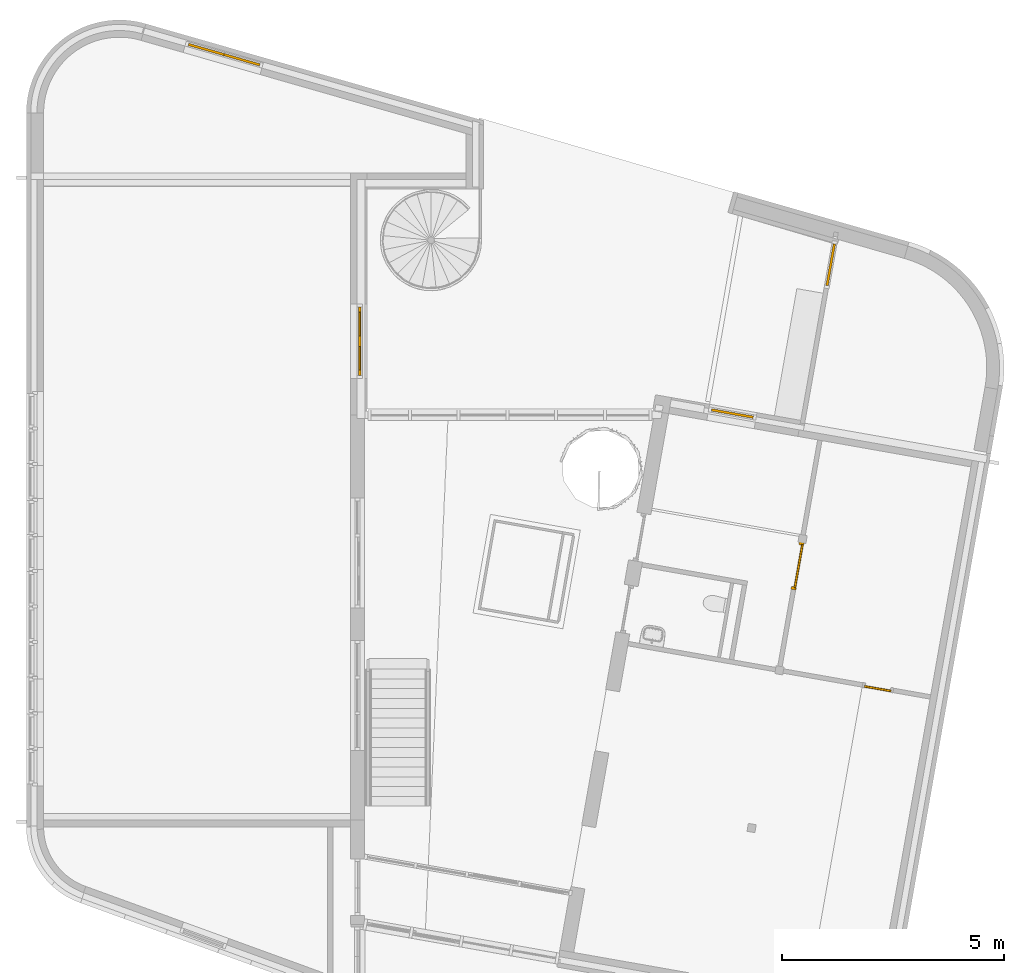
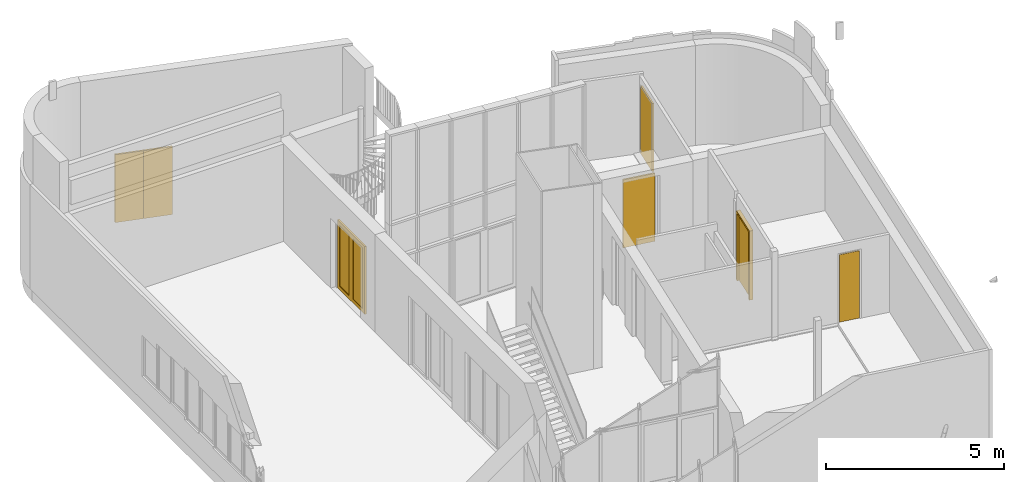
# One storey, part 18 of 21: 8 doors, 2 windows, 4 elements without a shape of their own.
"""IFC2X3 building model written with IfcOpenShell, lengths in millimetres."""

from ifc_helpers import new_model, entity, si_unit, converted_unit, derived_unit, direction, frame, frame_2d, origin, origin_2d_with_axis, place, context, subcontext, project, spatial, polyline, rectangle, outline, extrude, faceted_brep, source, transform, mapped, material, type_object, type_shapes, element, aggregate, save


model = new_model("IFC2X3")

# Units and contexts
model_context = context("Model", 3, precision=0.01, world=origin(), true_north=direction((6.12303176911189e-17, 1.0)))
body_context = subcontext(model_context, "Body", "Model", "MODEL_VIEW")
ifc_project = project(units=[si_unit("LENGTHUNIT", "METRE", prefix="MILLI"), si_unit("AREAUNIT", "SQUARE_METRE"), si_unit("VOLUMEUNIT", "CUBIC_METRE"), converted_unit("PLANEANGLEUNIT", "DEGREE", entity("IfcRatioMeasure", 0.0174532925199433), si_unit("PLANEANGLEUNIT", "RADIAN"), dimensions=[0, 0, 0, 0, 0, 0, 0]), si_unit("MASSUNIT", "GRAM", prefix="KILO"), derived_unit("MASSDENSITYUNIT", [(si_unit("MASSUNIT", "GRAM", prefix="KILO"), 1), (si_unit("LENGTHUNIT", "METRE"), -3)]), si_unit("TIMEUNIT", "SECOND"), si_unit("FREQUENCYUNIT", "HERTZ"), si_unit("THERMODYNAMICTEMPERATUREUNIT", "DEGREE_CELSIUS"), derived_unit("THERMALTRANSMITTANCEUNIT", [(si_unit("MASSUNIT", "GRAM", prefix="KILO"), 1), (si_unit("THERMODYNAMICTEMPERATUREUNIT", "KELVIN"), -1), (si_unit("TIMEUNIT", "SECOND"), -3)]), derived_unit("VOLUMETRICFLOWRATEUNIT", [(si_unit("LENGTHUNIT", "METRE"), 3), (si_unit("TIMEUNIT", "SECOND"), -1)]), si_unit("ELECTRICCURRENTUNIT", "AMPERE"), si_unit("ELECTRICVOLTAGEUNIT", "VOLT"), si_unit("POWERUNIT", "WATT"), si_unit("FORCEUNIT", "NEWTON", prefix="KILO"), si_unit("ILLUMINANCEUNIT", "LUX"), si_unit("LUMINOUSFLUXUNIT", "LUMEN"), si_unit("LUMINOUSINTENSITYUNIT", "CANDELA"), derived_unit("USERDEFINED", [(si_unit("MASSUNIT", "GRAM", prefix="KILO"), -1), (si_unit("LENGTHUNIT", "METRE"), -2), (si_unit("TIMEUNIT", "SECOND"), 3), (si_unit("LUMINOUSFLUXUNIT", "LUMEN"), 1)]), derived_unit("LINEARVELOCITYUNIT", [(si_unit("LENGTHUNIT", "METRE"), 1), (si_unit("TIMEUNIT", "SECOND"), -1)]), si_unit("PRESSUREUNIT", "PASCAL"), derived_unit("USERDEFINED", [(si_unit("LENGTHUNIT", "METRE"), -2), (si_unit("MASSUNIT", "GRAM", prefix="KILO"), 1), (si_unit("TIMEUNIT", "SECOND"), -2)])], contexts=[model_context])

# Site, building, storey
site_placement = place(None, origin())
site = spatial("IfcSite", under=ifc_project, at=site_placement, Name="<Kadaster Gemeente>;<Kadaster nummer>;<Kadaster sectie>", CompositionType="ELEMENT")
building_placement = place(site_placement, origin())
building = spatial("IfcBuilding", under=site, at=building_placement, Name="JRCZ Middelburg", CompositionType="ELEMENT")
storey_placement = place(building_placement, origin())
storey = spatial("IfcBuildingStorey", under=building, at=storey_placement, Name="00 begane grond", CompositionType="ELEMENT", Elevation=0.0)

# Curtain wall, door
curtain_wall_type = type_object("IfcCurtainWallType", Name="Curtain Wall:NLRS_31_CW_Ontwerpkozijn 067x114", PredefinedType="NOTDEFINED")
curtain_wall_1_placement = place(storey_placement, origin())
curtain_wall_1 = element("IfcCurtainWall", 1, at=curtain_wall_1_placement, inside=storey, type_object=curtain_wall_type, Name="Curtain Wall:NLRS_31_CW_Ontwerpkozijn 067x114", ObjectType="Curtain Wall:NLRS_31_CW_Ontwerpkozijn 067x114")
ifc_material_1 = material(Name="RBM_a_kozijn")
door_style_1 = type_object("IfcDoorStyle", Name="0std", ConstructionType="NOTDEFINED", OperationType="NOTDEFINED", ParameterTakesPrecedence=False, Sizeable=False, material=ifc_material_1)
shared_shape_1 = source(origin(), body_context, "Body", "SweptSolid", [
    extrude(outline(polyline([(-383.249999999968, -1166.5), (383.249999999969, -1166.5), (383.249999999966, 1166.5), (-383.249999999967, 1166.5), (-383.249999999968, -1166.5)]), holes=[polyline([(-263.249999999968, -1046.5), (-263.249999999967, 1046.49999999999), (263.250000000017, 1046.49999999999), (263.250000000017, -1046.5), (-263.249999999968, -1046.5)])]), frame((383.249999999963, 57.0, 1166.5), z_axis=(0.0, 1.0, 0.0), x_axis=(1.0, 0.0, 0.0)), (0.0, 0.0, 1.0), 27.0),
    extrude(outline(polyline([(-383.249999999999, -1166.5), (383.249999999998, -1166.5), (383.249999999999, 1166.5), (-383.249999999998, 1166.5), (-383.249999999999, -1166.5)]), holes=[polyline([(-263.249999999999, -1046.49999999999), (-263.249999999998, 1046.49999999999), (263.249999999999, 1046.5), (263.249999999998, -1046.49999999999), (-263.249999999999, -1046.49999999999)])]), frame((-383.249999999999, 57.0, 1166.5), z_axis=(0.0, 1.0, 0.0), x_axis=(1.0, 0.0, 0.0)), (0.0, 0.0, 1.0), 27.0),
    extrude(outline(polyline([(-383.249999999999, -1166.5), (383.249999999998, -1166.5), (383.249999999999, 1166.5), (-383.249999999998, 1166.5), (-383.249999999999, -1166.5)]), holes=[polyline([(-263.249999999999, -1046.49999999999), (-263.249999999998, 1046.49999999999), (263.249999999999, 1046.49999999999), (263.249999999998, -1046.49999999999), (-263.249999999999, -1046.49999999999)])]), frame((-383.249999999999, 30.0, 1166.5), z_axis=(0.0, 1.0, 0.0), x_axis=(1.0, 0.0, 0.0)), (0.0, 0.0, 1.0), 27.0000000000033),
    extrude(outline(polyline([(-383.249999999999, -1166.5), (383.249999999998, -1166.5), (383.249999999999, 1166.5), (-383.249999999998, 1166.5), (-383.249999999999, -1166.5)]), holes=[polyline([(-263.249999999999, -1046.49999999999), (-263.249999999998, 1046.49999999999), (263.249999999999, 1046.49999999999), (263.249999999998, -1046.49999999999), (-263.249999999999, -1046.49999999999)])]), frame((383.249999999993, 30.0, 1166.5), z_axis=(0.0, 1.0, 0.0), x_axis=(1.0, 0.0, 0.0)), (0.0, 0.0, 1.0), 26.9999999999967),
])
type_shapes(door_style_1, [shared_shape_1])
door_1_placement = place(curtain_wall_1_placement, frame((17200.0, 20763.5106983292, 0.0), z_axis=(0.0, 0.0, 1.0), x_axis=(0.0, -1.0, 0.0)))
door_1 = element("IfcDoor", 2, at=door_1_placement, type_object=door_style_1, material=ifc_material_1, Name="31_DO_stolpdeur_1:0std", ObjectType="31_DO_stolpdeur_1:0std", OverallHeight=2333.00000000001, OverallWidth=1533.0, context=body_context, shape_type="MappedRepresentation", body=[
    mapped(shared_shape_1, transform((0.0, 0.0, 0.0), scale=1.0)),
])
aggregate(curtain_wall_1, [door_1])

# Windows
ifc_material_2 = material(Name="o1_glas")
window_style = type_object("IfcWindowStyle", Name="glas 2", ConstructionType="NOTDEFINED", OperationType="NOTDEFINED", ParameterTakesPrecedence=False, Sizeable=False, material=ifc_material_2)
shared_shape_2 = source(origin(), body_context, "Body", "SweptSolid", [
    extrude(rectangle(XDim=24.0000000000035, YDim=526.500000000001, at=origin_2d_with_axis()), frame((0.0, 0.0, 0.0), z_axis=(0.0, 0.0, 1.0), x_axis=(0.0, -1.0, 0.0)), (0.0, 0.0, 1.0), 2092.99999999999),
])
type_shapes(window_style, [shared_shape_2])
for number, where, z_axis, x_axis, name in (
    (3, (17257.0, 20380.2606983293, 120.0), (0.0, 0.0, 1.0), (0.0, -1.0, 0.0), "WI_subvak:glas 2"),
    (4, (17257.0, 21146.7606983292, 120.0), (0.0, 0.0, 1.0), (0.0, -1.0, 0.0), "WI_subvak:glas 2"),
):
    element("IfcWindow", number, at=place(storey_placement, frame(where, z_axis=z_axis, x_axis=x_axis)), inside=storey, type_object=window_style, material=ifc_material_2, Name=name, ObjectType="WI_subvak:glas 2", OverallHeight=2172.99999999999, OverallWidth=526.500000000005, context=body_context, shape_type="MappedRepresentation", body=[
        mapped(shared_shape_2, transform((0.0, 0.0, 0.0), scale=1.0)),
    ])

# Doors
door_style_2 = type_object("IfcDoorStyle", Name="enkele deur_gen", ConstructionType="USERDEFINED", OperationType="NOTDEFINED", ParameterTakesPrecedence=False, Sizeable=False)
shared_shape_3 = source(origin(), body_context, "Body", "Brep", [
    faceted_brep([(492.0, 0.0, 0.0), (492.0, 54.0, 0.0), (475.0, 54.0, 0.0), (475.0, 114.0, 0.0), (542.0, 114.0, 0.0), (542.0, 0.0, 0.0), (492.0, 0.0, 2327.0), (492.0, 54.0, 2327.0), (492.0, 54.0, 2310.0), (475.0, 54.0, 2310.0), (475.0, 114.0, 2310.0), (542.0, 114.0, 2310.0), (542.0, 54.0, 2310.0), (542.0, 54.0, 2327.0), (542.0, 0.0, 2327.0)], [[[0, 1, 2, 3, 4, 5]], [[6, 7, 8, 1, 0]], [[2, 1, 8, 9]], [[3, 2, 9, 10]], [[4, 3, 10, 11]], [[5, 4, 11, 12, 13, 14]], [[14, 6, 0, 5]], [[6, 14, 13, 7]], [[8, 12, 11, 10, 9]], [[12, 8, 7, 13]]]),
    faceted_brep([(-542.0, 0.0, 2327.0), (-542.0, 0.0, 2377.0), (-542.0, 114.0, 2377.0), (-542.0, 114.0, 2310.0), (-542.0, 54.0, 2310.0), (-542.0, 54.0, 2327.0), (542.0, 0.0, 2327.0), (542.0, 54.0, 2327.0), (542.0, 54.0, 2310.0), (542.0, 114.0, 2310.0), (542.0, 114.0, 2377.0), (542.0, 0.0, 2377.0)], [[[0, 1, 2, 3, 4, 5]], [[6, 7, 8, 9, 10, 11]], [[5, 7, 6, 0]], [[4, 8, 7, 5]], [[3, 9, 8, 4]], [[2, 10, 9, 3]], [[1, 11, 10, 2]], [[0, 6, 11, 1]]]),
    faceted_brep([(-492.0, 0.0, 0.0), (-542.0, 0.0, 0.0), (-542.0, 114.0, 0.0), (-475.0, 114.0, 0.0), (-475.0, 54.0, 0.0), (-492.0, 54.0, 0.0), (-492.0, 0.0, 2327.0), (-492.0, 54.0, 2310.0), (-492.0, 54.0, 2327.0), (-475.0, 54.0, 2310.0), (-475.0, 114.0, 2310.0), (-542.0, 114.0, 2310.0), (-542.0, 0.0, 2327.0), (-542.0, 54.0, 2327.0), (-542.0, 54.0, 2310.0)], [[[0, 1, 2, 3, 4, 5]], [[6, 0, 5, 7, 8]], [[4, 9, 7, 5]], [[3, 10, 9, 4]], [[2, 11, 10, 3]], [[1, 12, 13, 14, 11, 2]], [[12, 1, 0, 6]], [[6, 8, 13, 12]], [[7, 9, 10, 11, 14]], [[14, 13, 8, 7]]]),
])
type_shapes(door_style_2, [shared_shape_3])
door_2_placement = place(storey_placement, frame((27156.9480096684, 15702.6644720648, 0.0), z_axis=(0.0, 0.0, 1.0), x_axis=(0.173648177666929, 0.984807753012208, 0.0)))
element("IfcDoor", 5, at=door_2_placement, inside=storey, type_object=door_style_2, Name="NLRS_32_DO_UN_samenstelling binnenkozijn hout-SH_generiek_ISR:enkele deur_gen", ObjectType="NLRS_32_DO_UN_samenstelling binnenkozijn hout-SH_generiek_ISR:enkele deur_gen", OverallHeight=2377.00000000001, OverallWidth=1084.0, context=body_context, shape_type="MappedRepresentation", body=[
    mapped(shared_shape_3, transform((0.0, 0.0, 0.0), scale=1.0)),
])
door_style_3 = type_object("IfcDoorStyle", Name="dichte deur_gen", ConstructionType="USERDEFINED", OperationType="NOTDEFINED", ParameterTakesPrecedence=False, Sizeable=False)
shared_shape_4 = source(origin(), body_context, "Body", "SweptSolid", [
    extrude(rectangle(XDim=979.999999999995, YDim=40.0, at=origin_2d_with_axis()), frame((0.0, 20.0, 0.0), z_axis=(0.0, 0.0, 1.0), x_axis=(-1.0, 0.0, 0.0)), (0.0, 0.0, 1.0), 2315.0),
])
type_shapes(door_style_3, [shared_shape_4])
door_3_placement = place(storey_placement, frame((27143.1607011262, 15705.0955465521, 10.0), z_axis=(0.0, 0.0, 1.0), x_axis=(0.173648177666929, 0.984807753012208, 0.0)))
element("IfcDoor", 6, at=door_3_placement, inside=storey, type_object=door_style_3, Name="NLRS_32_DO_ISR_onderdeel deur-SH_generiek_ISR:dichte deur_gen", ObjectType="NLRS_32_DO_ISR_onderdeel deur-SH_generiek_ISR:dichte deur_gen", OverallHeight=2315.0, OverallWidth=980.000000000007, context=body_context, shape_type="MappedRepresentation", body=[
    mapped(shared_shape_4, transform((0.0, 0.0, 0.0), scale=1.0)),
])

# Curtain wall, doors
curtain_wall_2_placement = place(storey_placement, origin())
curtain_wall_2 = element("IfcCurtainWall", 7, at=curtain_wall_2_placement, inside=storey, type_object=curtain_wall_type, Name="Curtain Wall:NLRS_31_CW_Ontwerpkozijn 067x114", ObjectType="Curtain Wall:NLRS_31_CW_Ontwerpkozijn 067x114")
ifc_material_3 = material(Name="RBM_a_deur_paneel")
door_style_4 = type_object("IfcDoorStyle", Name="deur", ConstructionType="NOTDEFINED", OperationType="NOTDEFINED", ParameterTakesPrecedence=False, Sizeable=False, material=ifc_material_3)
shared_shape_5 = source(origin(), body_context, "Body", "SweptSolid", [
    extrude(rectangle(XDim=27.0, YDim=833.000000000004, at=frame_2d((8.88178419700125e-15, 0.0), x_axis=(1.0, 0.0))), frame((0.0, 70.4999999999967, 0.0), z_axis=(0.0, 0.0, 1.0), x_axis=(0.0, 1.0, 0.0)), (0.0, 0.0, 1.0), 2333.00000000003),
    extrude(rectangle(XDim=26.9999999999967, YDim=833.000000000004, at=origin_2d_with_axis()), frame((0.0, 43.4999999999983, 0.0), z_axis=(0.0, 0.0, 1.0), x_axis=(0.0, 1.0, 0.0)), (0.0, 0.0, 1.0), 2333.00000000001),
])
type_shapes(door_style_4, [shared_shape_5])
door_4_placement = place(curtain_wall_2_placement, frame((13791.5708589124, 27264.9308363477, 0.0), z_axis=(0.0, 0.0, 1.0), x_axis=(0.961261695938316, -0.27563735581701, 0.0)))
door_4 = element("IfcDoor", 8, at=door_4_placement, type_object=door_style_4, material=ifc_material_3, Name="31_DO_deur_0:deur", ObjectType="31_DO_deur_0:deur", OverallHeight=2333.00000000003, OverallWidth=833.000000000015, context=body_context, shape_type="MappedRepresentation", body=[
    mapped(shared_shape_5, transform((0.0, 0.0, 0.0), scale=1.0)),
])
door_style_5 = type_object("IfcDoorStyle", Name="deur", ConstructionType="NOTDEFINED", OperationType="NOTDEFINED", ParameterTakesPrecedence=False, Sizeable=False, material=ifc_material_3)
shared_shape_6 = source(origin(), body_context, "Body", "SweptSolid", [
    extrude(rectangle(XDim=27.0, YDim=833.00000000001, at=frame_2d((8.88178419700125e-15, 0.0), x_axis=(1.0, 0.0))), frame((0.0, 70.4999999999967, 0.0), z_axis=(0.0, 0.0, 1.0), x_axis=(0.0, 1.0, 0.0)), (0.0, 0.0, 1.0), 2333.00000000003),
    extrude(rectangle(XDim=26.9999999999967, YDim=833.00000000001, at=origin_2d_with_axis()), frame((0.0, 43.4999999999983, 0.0), z_axis=(0.0, 0.0, 1.0), x_axis=(0.0, 1.0, 0.0)), (0.0, 0.0, 1.0), 2333.00000000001),
])
type_shapes(door_style_5, [shared_shape_6])
door_5_placement = place(curtain_wall_2_placement, frame((14592.301851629, 27035.3249189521, 0.0), z_axis=(0.0, 0.0, 1.0), x_axis=(0.961261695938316, -0.27563735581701, 0.0)))
door_5 = element("IfcDoor", 9, at=door_5_placement, type_object=door_style_5, material=ifc_material_3, Name="31_DO_deur_0:deur", ObjectType="31_DO_deur_0:deur", OverallHeight=2333.00000000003, OverallWidth=833.000000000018, context=body_context, shape_type="MappedRepresentation", body=[
    mapped(shared_shape_6, transform((0.0, 0.0, 0.0), scale=1.0)),
])
aggregate(curtain_wall_2, [door_4, door_5])

# Curtain wall, door
curtain_wall_3_placement = place(storey_placement, origin())
curtain_wall_3 = element("IfcCurtainWall", 10, at=curtain_wall_3_placement, inside=storey, type_object=curtain_wall_type, Name="Curtain Wall:NLRS_31_CW_Ontwerpkozijn 067x114", ObjectType="Curtain Wall:NLRS_31_CW_Ontwerpkozijn 067x114")
door_style_6 = type_object("IfcDoorStyle", Name="deur", ConstructionType="NOTDEFINED", OperationType="NOTDEFINED", ParameterTakesPrecedence=False, Sizeable=False, material=ifc_material_3)
shared_shape_7 = source(origin(), body_context, "Body", "SweptSolid", [
    extrude(rectangle(XDim=950.000000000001, YDim=27.0, at=origin_2d_with_axis()), frame((0.0, -70.4999999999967, 0.0), z_axis=(0.0, 0.0, 1.0), x_axis=(-1.0, 0.0, 0.0)), (0.0, 0.0, 1.0), 2333.00000000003),
    extrude(rectangle(XDim=950.000000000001, YDim=26.9999999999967, at=origin_2d_with_axis()), frame((0.0, -43.4999999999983, 0.0), z_axis=(0.0, 0.0, 1.0), x_axis=(-1.0, 0.0, 0.0)), (0.0, 0.0, 1.0), 2333.00000000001),
])
type_shapes(door_style_6, [shared_shape_7])
door_6_placement = place(curtain_wall_3_placement, frame((27900.2890041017, 22473.1441529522, 0.0), z_axis=(0.0, 0.0, 1.0), x_axis=(-0.17364817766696, -0.984807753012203, 0.0)))
door_6 = element("IfcDoor", 11, at=door_6_placement, type_object=door_style_6, material=ifc_material_3, Name="31_DO_deur_0:deur", ObjectType="31_DO_deur_0:deur", OverallHeight=2333.00000000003, OverallWidth=950.00000000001, context=body_context, shape_type="MappedRepresentation", body=[
    mapped(shared_shape_7, transform((0.0, 0.0, 0.0), scale=1.0)),
])
aggregate(curtain_wall_3, [door_6])

curtain_wall_4_placement = place(storey_placement, origin())
curtain_wall_4 = element("IfcCurtainWall", 12, at=curtain_wall_4_placement, inside=storey, type_object=curtain_wall_type, Name="Curtain Wall:NLRS_31_CW_Ontwerpkozijn 067x114", ObjectType="Curtain Wall:NLRS_31_CW_Ontwerpkozijn 067x114")
door_style_7 = type_object("IfcDoorStyle", Name="deur", ConstructionType="NOTDEFINED", OperationType="NOTDEFINED", ParameterTakesPrecedence=False, Sizeable=False, material=ifc_material_3)
shared_shape_8 = source(origin(), body_context, "Body", "SweptSolid", [
    extrude(rectangle(XDim=950.000000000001, YDim=27.0, at=origin_2d_with_axis()), frame((0.0, -70.4999999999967, 0.0), z_axis=(0.0, 0.0, 1.0), x_axis=(-1.0, 0.0, 0.0)), (0.0, 0.0, 1.0), 2333.00000000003),
    extrude(rectangle(XDim=950.000000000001, YDim=26.9999999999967, at=origin_2d_with_axis()), frame((0.0, -43.4999999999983, 0.0), z_axis=(0.0, 0.0, 1.0), x_axis=(-1.0, 0.0, 0.0)), (0.0, 0.0, 1.0), 2333.00000000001),
])
type_shapes(door_style_7, [shared_shape_8])
door_7_placement = place(curtain_wall_4_placement, frame((25623.6533749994, 19081.2465445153, 0.0), z_axis=(0.0, 0.0, 1.0), x_axis=(-0.984807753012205, 0.173648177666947, 0.0)))
door_7 = element("IfcDoor", 13, at=door_7_placement, type_object=door_style_7, material=ifc_material_3, Name="31_DO_deur_0:deur", ObjectType="31_DO_deur_0:deur", OverallHeight=2333.00000000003, OverallWidth=950.00000000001, context=body_context, shape_type="MappedRepresentation", body=[
    mapped(shared_shape_8, transform((0.0, 0.0, 0.0), scale=1.0)),
])
aggregate(curtain_wall_4, [door_7])

# Door
door_style_8 = type_object("IfcDoorStyle", Name="dichte deur_gen", ConstructionType="USERDEFINED", OperationType="NOTDEFINED", ParameterTakesPrecedence=False, Sizeable=False)
shared_shape_9 = source(origin(), body_context, "Body", "SweptSolid", [
    extrude(rectangle(XDim=40.0, YDim=599.999999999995, at=origin_2d_with_axis()), frame((0.0, -20.0, 0.0), z_axis=(0.0, 0.0, 1.0), x_axis=(0.0, 1.0, 0.0)), (0.0, 0.0, 1.0), 2315.0),
])
type_shapes(door_style_8, [shared_shape_9])
door_8_placement = place(storey_placement, frame((28897.3305485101, 12932.3631132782, 10.0), z_axis=(0.0, 0.0, 1.0), x_axis=(-0.984807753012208, 0.173648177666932, 0.0)))
element("IfcDoor", 14, at=door_8_placement, inside=storey, type_object=door_style_8, Name="NLRS_32_DO_ISR_onderdeel deur-SH_generiek_ISR:dichte deur_gen", ObjectType="NLRS_32_DO_ISR_onderdeel deur-SH_generiek_ISR:dichte deur_gen", OverallHeight=2315.0, OverallWidth=600.000000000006, context=body_context, shape_type="MappedRepresentation", body=[
    mapped(shared_shape_9, transform((0.0, 0.0, 0.0), scale=1.0)),
])

save(model, "model.ifc")
